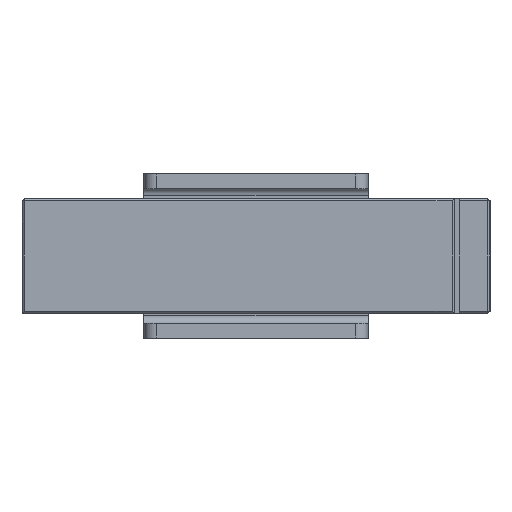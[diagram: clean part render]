
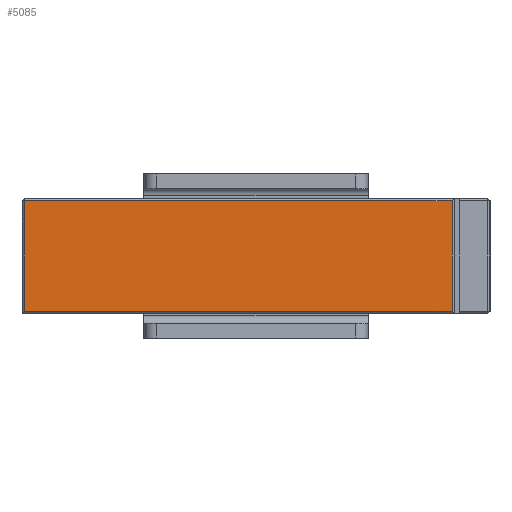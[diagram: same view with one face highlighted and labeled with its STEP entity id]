
A CAD part, left-side view. The second image highlights one B-rep face of the part: STEP entity #5085.
In plain terms, the highlighted planar face has unit normal (-1, 0, 0).
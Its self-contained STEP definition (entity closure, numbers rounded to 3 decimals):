
#367 = EDGE_CURVE ( 'NONE', #9383, #628, #4888, .T. ) ;
#433 = EDGE_LOOP ( 'NONE', ( #4310, #5623, #5315, #4658 ) ) ;
#591 = VECTOR ( 'NONE', #4656, 1000. ) ;
#628 = VERTEX_POINT ( 'NONE', #1972 ) ;
#642 = VECTOR ( 'NONE', #1069, 1000. ) ;
#758 = DIRECTION ( 'NONE',  ( 0., 0., -1. ) ) ;
#1069 = DIRECTION ( 'NONE',  ( 0., 1., 0. ) ) ;
#1524 = EDGE_CURVE ( 'NONE', #7449, #9383, #6613, .T. ) ;
#1971 = DIRECTION ( 'NONE',  ( 0., -1., 0. ) ) ;
#1972 = CARTESIAN_POINT ( 'NONE',  ( -8., 9.45, -2.25 ) ) ;
#2259 = CARTESIAN_POINT ( 'NONE',  ( -8., -8., 2.35 ) ) ;
#2483 = VECTOR ( 'NONE', #758, 1000. ) ;
#3240 = PLANE ( 'NONE',  #6098 ) ;
#3293 = CARTESIAN_POINT ( 'NONE',  ( -8., 0., 2.35 ) ) ;
#3696 = EDGE_CURVE ( 'NONE', #628, #6501, #8513, .T. ) ;
#4079 = DIRECTION ( 'NONE',  ( 1., 0., 0. ) ) ;
#4310 = ORIENTED_EDGE ( 'NONE', *, *, #1524, .T. ) ;
#4398 = CARTESIAN_POINT ( 'NONE',  ( -8., 9.45, 2.25 ) ) ;
#4656 = DIRECTION ( 'NONE',  ( 0., 0., 1. ) ) ;
#4658 = ORIENTED_EDGE ( 'NONE', *, *, #5021, .T. ) ;
#4732 = CARTESIAN_POINT ( 'NONE',  ( -8., 9.45, -2.35 ) ) ;
#4888 = LINE ( 'NONE', #4732, #2483 ) ;
#5021 = EDGE_CURVE ( 'NONE', #6501, #7449, #9430, .T. ) ;
#5085 = ADVANCED_FACE ( 'NONE', ( #7220 ), #3240, .F. ) ;
#5315 = ORIENTED_EDGE ( 'NONE', *, *, #3696, .T. ) ;
#5623 = ORIENTED_EDGE ( 'NONE', *, *, #367, .T. ) ;
#5647 = DIRECTION ( 'NONE',  ( 0., 1., 0. ) ) ;
#6098 = AXIS2_PLACEMENT_3D ( 'NONE', #3293, #4079, #5647 ) ;
#6501 = VERTEX_POINT ( 'NONE', #8771 ) ;
#6613 = LINE ( 'NONE', #9819, #642 ) ;
#7220 = FACE_OUTER_BOUND ( 'NONE', #433, .T. ) ;
#7449 = VERTEX_POINT ( 'NONE', #7591 ) ;
#7591 = CARTESIAN_POINT ( 'NONE',  ( -8., -8., 2.25 ) ) ;
#8406 = CARTESIAN_POINT ( 'NONE',  ( -8., 0., -2.25 ) ) ;
#8513 = LINE ( 'NONE', #8406, #9699 ) ;
#8771 = CARTESIAN_POINT ( 'NONE',  ( -8., -8., -2.25 ) ) ;
#9383 = VERTEX_POINT ( 'NONE', #4398 ) ;
#9430 = LINE ( 'NONE', #2259, #591 ) ;
#9699 = VECTOR ( 'NONE', #1971, 1000. ) ;
#9819 = CARTESIAN_POINT ( 'NONE',  ( -8., 9.55, 2.25 ) ) ;
